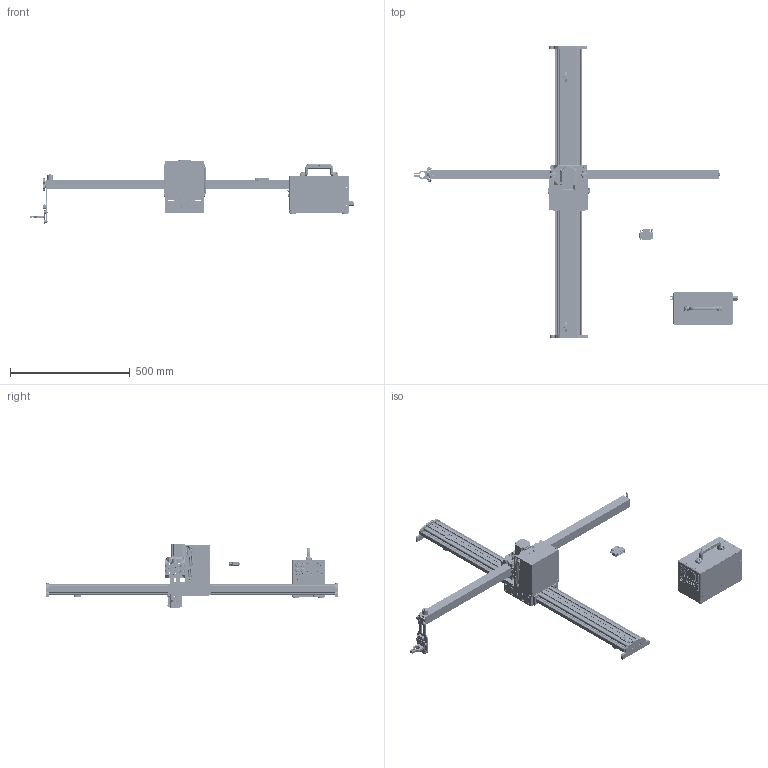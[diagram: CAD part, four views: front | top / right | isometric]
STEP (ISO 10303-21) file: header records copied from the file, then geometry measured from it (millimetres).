
FILE_DESCRIPTION(/* description */ (''),/* implementation_level */ '2;1');
FILE_NAME(/* name */ 'Plasma_V2 v197.step',/* time_stamp */ '2023-08-23T16:32:45+02:00',/* author */ (''),/* organization */ (''),/* preprocessor_version */ 'ST-DEVELOPER v20',/* originating_system */ 'Autodesk Translation Framework v12.9.0.99',/* authorisation */ '');
FILE_SCHEMA (('AUTOMOTIVE_DESIGN { 1 0 10303 214 3 1 1 }'));
Products named in the file (120): Plasma_V2; PLASMA; Torch_knob; Y-Drive; Y-Drive-housing; SeitenteilL; Seitenabdeckung; Endplate; federn; LPT_Breakout; Platine; spacer; federn_1; federpt1; Endcap_plasma_side; Riemenspanner_X2; GT2_Base; GT2_Adapter; EndStop_Y; Seitenabdeckung(Spiegeln); Z-Abdeckung; Riemen_Y; Torchholder_Assembly; BasePlate; V-Bearing; TorchSled; Lidl_Torch_Bracket; EndStop_Y_1; EndY_ramp; Nutenstein_M4; Schraube_M4x15; Tablemount; ParallelPort; ParallelPor_Platet; Brass_Insert_M3x4; ScrewAdapter; Federhalter_Seite; Endplate_1; Platte; RiemenSpanner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
Assembly tree (267 placements, depth 4):
  Plasma_V2
    PLASMA
      Torch_knob
      Y-Drive
        Y-Drive-housing
        LimitSwitch
        Nema23
        Pully  x2
        GT2_pully
        M5x8_Brass  x2
        M5x20  x2
      SeitenteilL
      Seitenabdeckung
      Federhalter_Seite  x4
      Endplate
        Platte
        RiemenSpanner
        Schraube_M8  x2
      federn
        federpt1  x2
      HGR_Wagen(Spiegeln)  x2
      LPT_Breakout
        Platine
        connector  x10
        spacer  x4
      federn_1
        federpt1  x2
      Endcap_plasma_side
      Riemenspanner_X2
        GT2_Base
        GT2_Adapter
        Schraube_M4x15
      EndStop_Y
        EndY_ramp
        Nutenstein_M4
        Schraube_M4x15
      Tablemount  x2
      Seitenabdeckung(Spiegeln)
      Z-Abdeckung
      Riemen_Y
      Torchholder_Assembly
        BasePlate
        V-Bearing  x4
        LimitSwitch
        TorchSled
        Lidl_Torch_Bracket
        Schraube_M4x15  x4
      EndStop_Y_1
        EndY_ramp
        Nutenstein_M4
        Schraube_M4x15
      ParallelPort
        ParallelPor_Platet
        LPT
        Brass_Insert_M3x4  x2
        ScrewAdapter  x2
      Endplate_1
        Platte
        RiemenSpanner
        Schraube_M8  x2
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Bounding box: 1355.91 x 1220 x 270.32 mm (x, y, z)
Volume: 8638212 mm3; surface area: 3292042.3 mm2
Topology: 428 solids, 428 shells, 12985 faces, 30830 edges, 19937 vertices
Faces by surface type: plane 7349, cylinder 3499, bspline 1709, cone 353, torus 59, sphere 16
Full cylindrical faces by diameter (mm): 0.8 x114, 1 x540, 1.5 x100, 1.54 x19, 2 x14, 2.075 x10, 2.2 x8, 2.4 x4, 2.5 x28, 2.529 x75, 2.8 x14, 2.819 x2, 2.927 x2, 3 x132, 3.2 x16, 3.3 x1, 3.332 x68, 3.4 x82, 3.5 x62, 3.884 x2, 3.908 x7, 4 x72, 4.2 x34, 4.234 x13, 4.5 x41, 4.8 x6, 4.901 x12, 5 x33, 5.035 x16, 5.1 x10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
Entity records: 570008 total; most frequent: CARTESIAN_POINT 352230, ORIENTED_EDGE 45398, DIRECTION 41125, EDGE_CURVE 22699, VERTEX_POINT 14605, AXIS2_PLACEMENT_3D 14132, LINE 12861, VECTOR 12861
